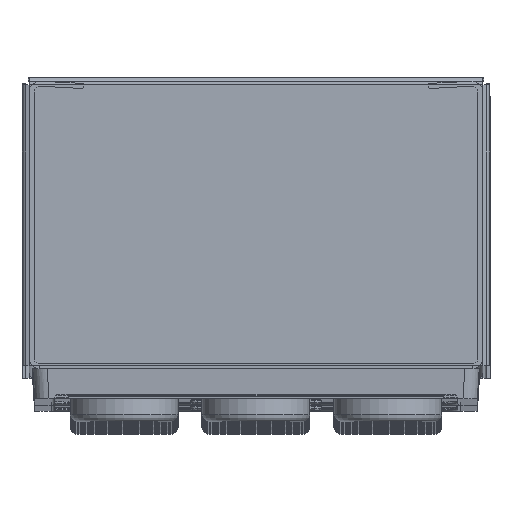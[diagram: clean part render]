
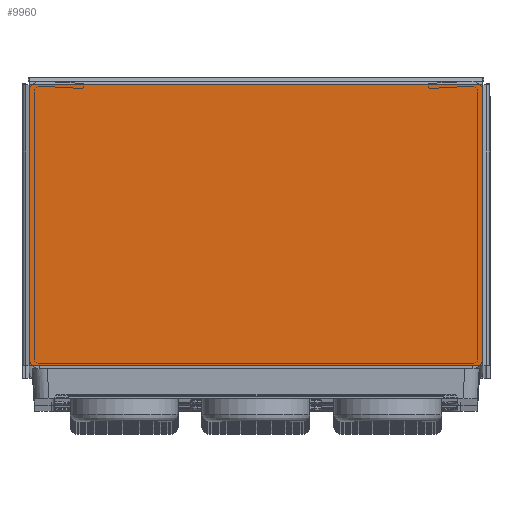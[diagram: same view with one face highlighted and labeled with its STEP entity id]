
A CAD part, top view. The second image highlights one B-rep face of the part: STEP entity #9960.
In plain terms, the highlighted planar face has unit normal (0, 0, 1).
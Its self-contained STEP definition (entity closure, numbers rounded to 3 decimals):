
#842=FACE_OUTER_BOUND('',#1523,.T.);
#1523=EDGE_LOOP('',(#6971,#6972,#6973,#6974));
#2369=LINE('',#16270,#2902);
#2379=LINE('',#16303,#2912);
#2397=LINE('',#16346,#2930);
#2414=LINE('',#16384,#2947);
#2902=VECTOR('',#12490,10.);
#2912=VECTOR('',#12524,10.);
#2930=VECTOR('',#12570,10.);
#2947=VECTOR('',#12613,10.);
#4200=VERTEX_POINT('',#16267);
#4201=VERTEX_POINT('',#16269);
#4204=VERTEX_POINT('',#16301);
#4215=VERTEX_POINT('',#16345);
#5217=EDGE_CURVE('',#4201,#4200,#2369,.T.);
#5231=EDGE_CURVE('',#4200,#4204,#2379,.T.);
#5253=EDGE_CURVE('',#4215,#4201,#2397,.T.);
#5273=EDGE_CURVE('',#4215,#4204,#2414,.T.);
#6971=ORIENTED_EDGE('',*,*,#5217,.T.);
#6972=ORIENTED_EDGE('',*,*,#5231,.T.);
#6973=ORIENTED_EDGE('',*,*,#5273,.F.);
#6974=ORIENTED_EDGE('',*,*,#5253,.T.);
#9666=PLANE('',#10715);
#9960=ADVANCED_FACE('',(#842),#9666,.T.);
#10715=AXIS2_PLACEMENT_3D('',#16390,#12617,#12618);
#12490=DIRECTION('',(-1.,0.,0.));
#12524=DIRECTION('',(0.,-1.,0.));
#12570=DIRECTION('',(0.,1.,0.));
#12613=DIRECTION('',(-1.,0.,0.));
#12617=DIRECTION('center_axis',(0.,0.,
1.));
#12618=DIRECTION('ref_axis',(1.,0.,0.));
#16267=CARTESIAN_POINT('',(-31.5,39.419,500.5));
#16269=CARTESIAN_POINT('',(31.5,39.419,500.5));
#16270=CARTESIAN_POINT('',(15.75,39.419,500.5));
#16301=CARTESIAN_POINT('',(-31.5,0.419,500.5));
#16303=CARTESIAN_POINT('',(-31.5,29.919,500.5));
#16345=CARTESIAN_POINT('',(31.5,0.419,500.5));
#16346=CARTESIAN_POINT('',(31.5,10.419,500.5));
#16384=CARTESIAN_POINT('',(32.5,0.419,500.5));
#16390=CARTESIAN_POINT('Origin',(0.,20.419,
500.5));
